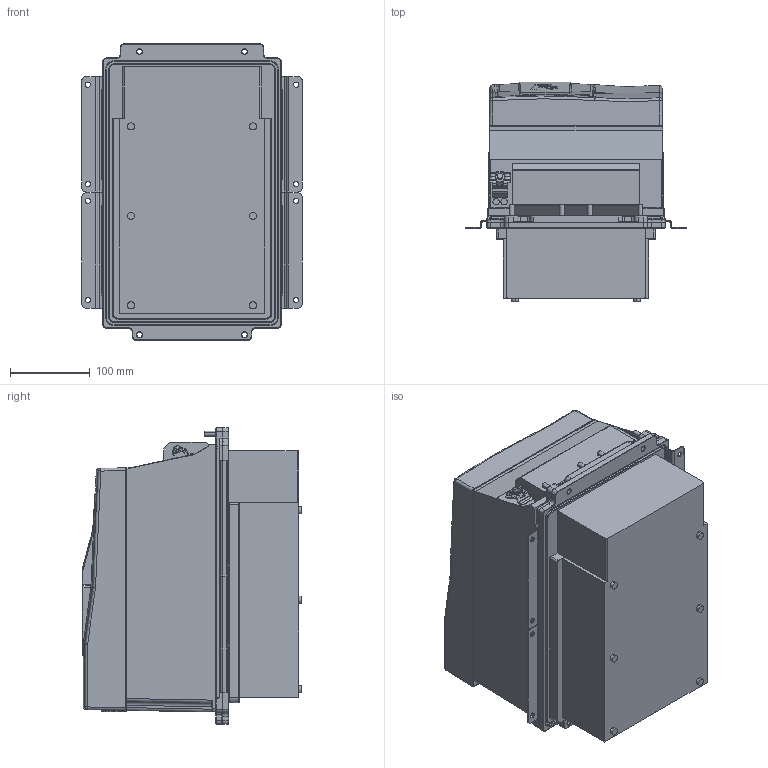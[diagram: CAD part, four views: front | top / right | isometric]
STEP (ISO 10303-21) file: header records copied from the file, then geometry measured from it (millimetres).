
FILE_DESCRIPTION (( 'STEP AP214' ), '1' );
FILE_NAME ('F6-4TR5-A030.STEP', '2020-12-08T12:15:41', ( '' ), ( '' ), 'SwSTEP 2.0', 'SolidWorks 2019', '' );
FILE_SCHEMA (( 'AUTOMOTIVE_DESIGN' ));
Length unit declared in the file: millimetre
Products named in the file (11): 10059763_000; 10059764_000_Blindabdeckung (Kundenmodell); F6-4TR5-A030; 10032600_000_Kundenmodell; 10061787_000; 10035736_000_Kundenmodell; 10061644_000_Deckel (Kundenmodell); 10058448_000; 10061645_000; 10045811_000_Leistungsteil TR5 (Kundenmodell); 10059765_000
Assembly tree (10 placements, depth 4):
  F6-4TR5-A030
    10045811_000_Leistungsteil TR5 (Kundenmodell)
      10061787_000
    10032600_000_Kundenmodell
      10061644_000_Deckel (Kundenmodell)
        10061645_000
      10058448_000
    10035736_000_Kundenmodell
      10059764_000_Blindabdeckung (Kundenmodell)
        10059765_000
      10059763_000
Bounding box: 277 x 276.2 x 373 mm (x, y, z)
Volume: 17476886.4 mm3; surface area: 900157.3 mm2
Topology: 14 solids, 31 shells, 2679 faces, 6858 edges, 4265 vertices
Faces by surface type: plane 1123, cylinder 685, bspline 535, torus 183, cone 113, sphere 40
Entity records: 102564 total; most frequent: CARTESIAN_POINT 40385, ORIENTED_EDGE 13598, DIRECTION 11514, EDGE_CURVE 6799, VERTEX_POINT 4263, AXIS2_PLACEMENT_3D 3854, VECTOR 3806, LINE 3806
